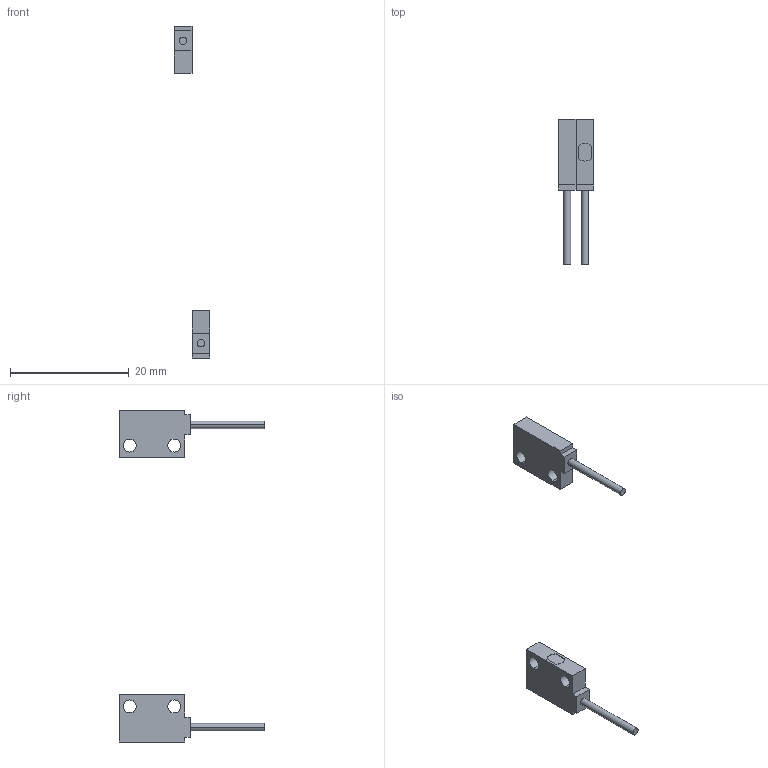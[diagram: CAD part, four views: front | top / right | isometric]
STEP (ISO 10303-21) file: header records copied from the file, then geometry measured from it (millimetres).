
FILE_DESCRIPTION (( 'STEP AP203' ), '1' );
FILE_NAME ('FT-Z8E.STEP', '2005-09-08T04:16:59', ( '' ), ( '' ), 'SwSTEP 2.0', 'SolidWorks 2004073', '' );
FILE_SCHEMA (( 'CONFIG_CONTROL_DESIGN' ));
Length unit declared in the file: millimetre
Products named in the file (3): FT-Z8E_P_蹬怮椔; FT-Z8E; FT-Z8E_D_蹬怮椔
Assembly tree (2 placements, depth 2):
  FT-Z8E
    FT-Z8E_P_蹬怮椔
    FT-Z8E_D_蹬怮椔
Bounding box: 6 x 24.5 x 56 mm (x, y, z)
Volume: 532.3 mm3; surface area: 758.1 mm2
Topology: 2 solids, 2 shells, 44 faces, 108 edges, 72 vertices
Faces by surface type: plane 28, cylinder 16
Entity records: 1625 total; most frequent: DIRECTION 238, CARTESIAN_POINT 229, ORIENTED_EDGE 216, EDGE_CURVE 108, AXIS2_PLACEMENT_3D 81, LINE 76, VECTOR 76, VERTEX_POINT 72
